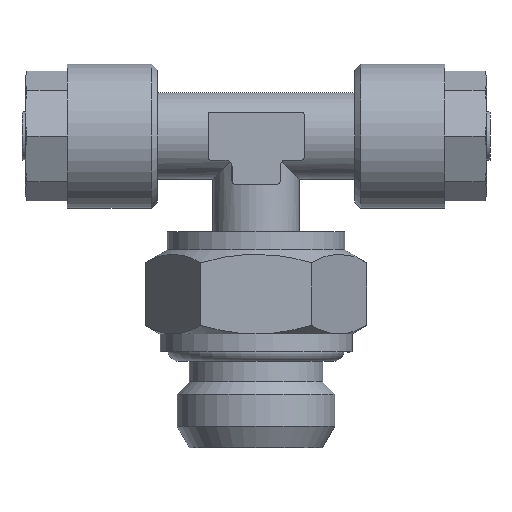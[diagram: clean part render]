
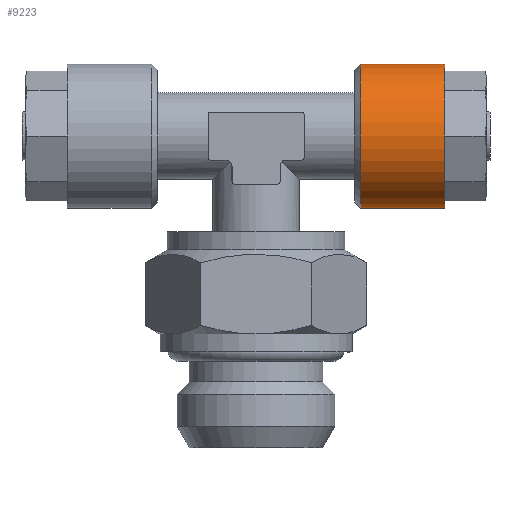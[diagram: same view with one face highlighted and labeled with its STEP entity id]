
A CAD part, front view. The second image highlights one B-rep face of the part: STEP entity #9223.
In plain terms, the highlighted cylindrical face has radius 6 mm (diameter 12 mm), a full revolution.
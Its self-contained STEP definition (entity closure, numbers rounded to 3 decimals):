
#3364=ORIENTED_EDGE('',*,*,#4116,.F.);
#3365=ORIENTED_EDGE('',*,*,#4117,.T.);
#3762=CIRCLE('',#8951,6.);
#3763=CIRCLE('',#8953,6.);
#3893=VERTEX_POINT('',#5636);
#3894=VERTEX_POINT('',#5639);
#4116=EDGE_CURVE('',#3893,#3893,#3762,.T.);
#4117=EDGE_CURVE('',#3894,#3894,#3763,.T.);
#4373=EDGE_LOOP('',(#3364));
#4374=EDGE_LOOP('',(#3365));
#4579=FACE_BOUND('',#4373,.T.);
#4580=FACE_BOUND('',#4374,.T.);
#4985=DIRECTION('',(0.,1.,0.));
#4986=DIRECTION('',(0.,0.,-6.));
#4987=DIRECTION('',(0.,1.,0.));
#4988=DIRECTION('',(1.,0.,0.));
#4989=DIRECTION('',(0.,1.,0.));
#4990=DIRECTION('',(0.,0.,6.));
#5636=CARTESIAN_POINT('',(0.,7.5,-6.));
#5637=CARTESIAN_POINT('',(0.,7.5,0.));
#5638=CARTESIAN_POINT('',(0.,0.5,0.));
#5639=CARTESIAN_POINT('',(0.,0.5,6.));
#5640=CARTESIAN_POINT('',(0.,0.5,0.));
#8951=AXIS2_PLACEMENT_3D('',#5637,#4985,#4986);
#8952=AXIS2_PLACEMENT_3D('',#5638,#4987,#4988);
#8953=AXIS2_PLACEMENT_3D('',#5640,#4989,#4990);
#9140=CYLINDRICAL_SURFACE('',#8952,6.);
#9223=ADVANCED_FACE('',(#4579,#4580),#9140,.T.);
